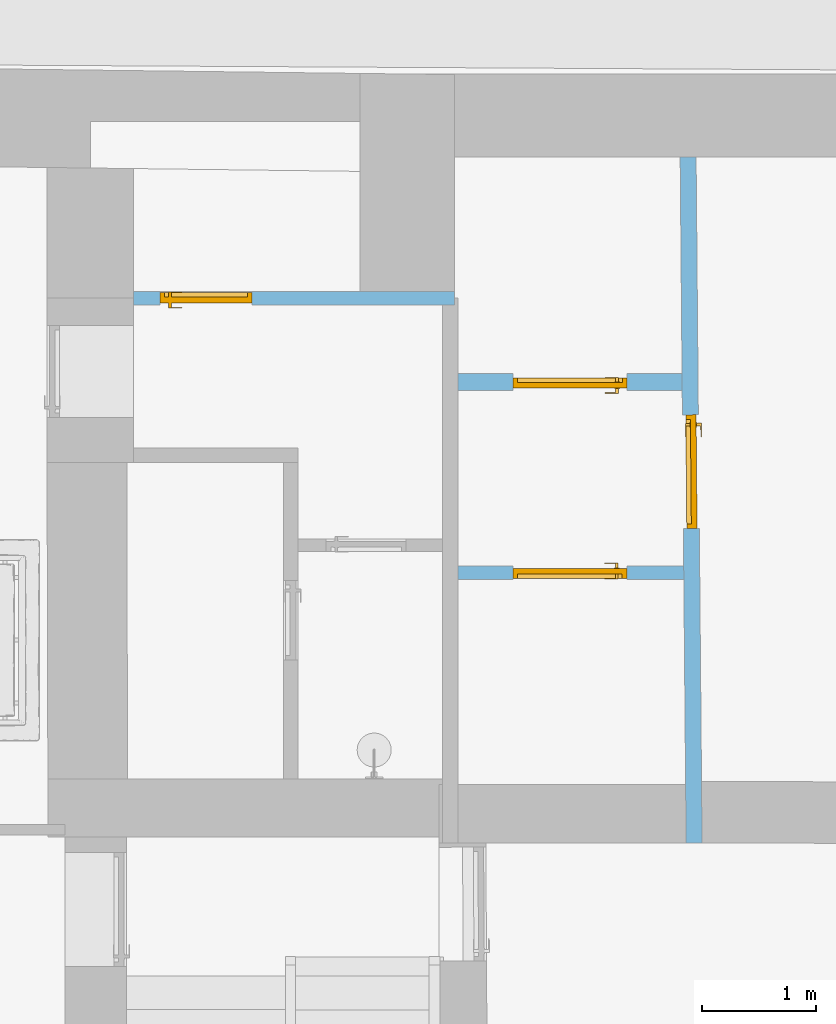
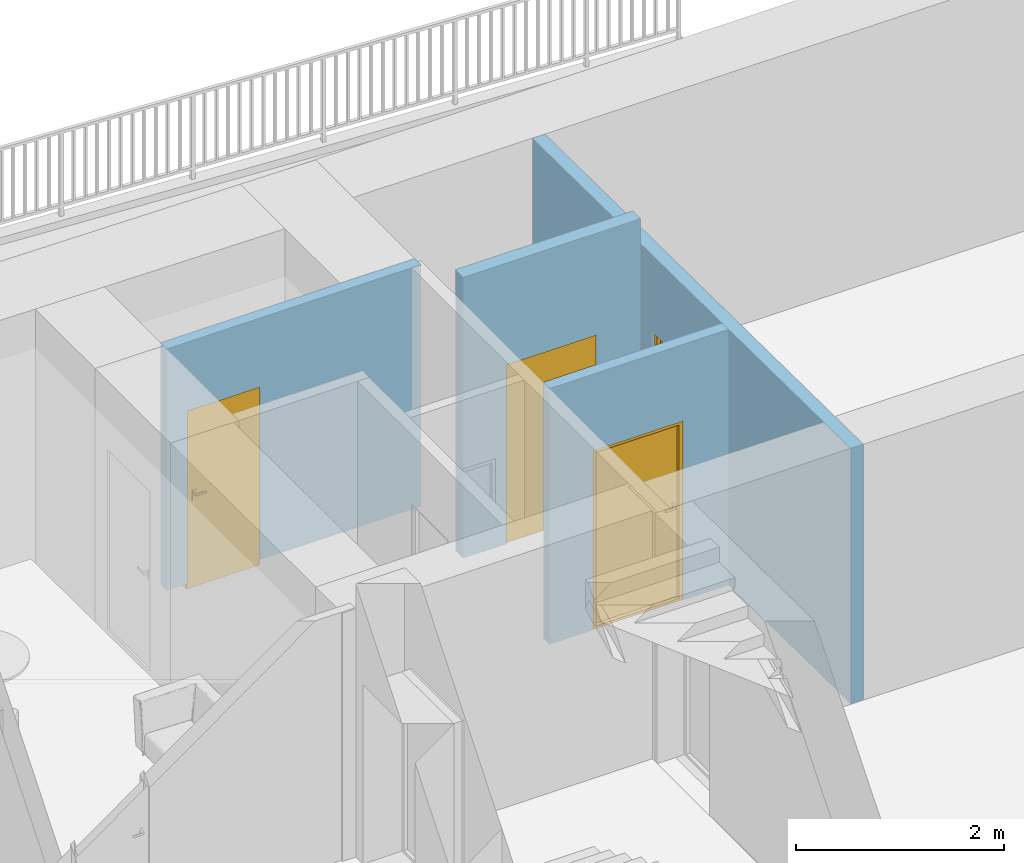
# One storey, part 9 of 17: 4 doors, 4 openings, plus 4 elements that do not belong to this part.
"""IFC2X3 building model written with IfcOpenShell, lengths in millimetres."""

from ifc_helpers import new_model, entity, si_unit, converted_unit, derived_unit, direction, frame, frame_2d, origin, place, context, subcontext, project, spatial, polyline, rectangle, outline, extrude, clip, bounded_halfspace, faceted_brep, source, transform, mapped, material, material_list, layer, layer_set, layer_usage, type_object, type_shapes, element, fill, save


model = new_model("IFC2X3")

# Units and contexts
model_context = context("Model", 3, precision=0.01, world=origin(), true_north=direction((6.12303176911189e-17, 1.0)))
context_of_model = context(None, 3, precision=0.01, world=origin(), true_north=direction((6.12303176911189e-17, 1.0)))
body_context = subcontext(model_context, "Body", "Model", "MODEL_VIEW")
ifc_project = project(units=[si_unit("LENGTHUNIT", "METRE", prefix="MILLI"), si_unit("AREAUNIT", "SQUARE_METRE"), si_unit("VOLUMEUNIT", "CUBIC_METRE"), converted_unit("PLANEANGLEUNIT", "DEGREE", entity("IfcRatioMeasure", 0.0174532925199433), si_unit("PLANEANGLEUNIT", "RADIAN"), dimensions=[0, 0, 0, 0, 0, 0, 0]), si_unit("MASSUNIT", "GRAM", prefix="KILO"), derived_unit("MASSDENSITYUNIT", [(si_unit("MASSUNIT", "GRAM", prefix="KILO"), 1), (si_unit("LENGTHUNIT", "METRE"), -3)]), si_unit("TIMEUNIT", "SECOND"), si_unit("FREQUENCYUNIT", "HERTZ"), si_unit("THERMODYNAMICTEMPERATUREUNIT", "DEGREE_CELSIUS"), derived_unit("THERMALTRANSMITTANCEUNIT", [(si_unit("MASSUNIT", "GRAM", prefix="KILO"), 1), (si_unit("THERMODYNAMICTEMPERATUREUNIT", "KELVIN"), -1), (si_unit("TIMEUNIT", "SECOND"), -3)]), derived_unit("VOLUMETRICFLOWRATEUNIT", [(si_unit("LENGTHUNIT", "METRE"), 3), (si_unit("TIMEUNIT", "SECOND"), -1)]), si_unit("ELECTRICCURRENTUNIT", "AMPERE"), si_unit("ELECTRICVOLTAGEUNIT", "VOLT"), si_unit("POWERUNIT", "WATT"), si_unit("FORCEUNIT", "NEWTON", prefix="KILO"), si_unit("ILLUMINANCEUNIT", "LUX"), si_unit("LUMINOUSFLUXUNIT", "LUMEN"), si_unit("LUMINOUSINTENSITYUNIT", "CANDELA"), derived_unit("USERDEFINED", [(si_unit("MASSUNIT", "GRAM", prefix="KILO"), -1), (si_unit("LENGTHUNIT", "METRE"), -2), (si_unit("TIMEUNIT", "SECOND"), 3), (si_unit("LUMINOUSFLUXUNIT", "LUMEN"), 1)]), derived_unit("LINEARVELOCITYUNIT", [(si_unit("LENGTHUNIT", "METRE"), 1), (si_unit("TIMEUNIT", "SECOND"), -1)]), si_unit("PRESSUREUNIT", "PASCAL"), derived_unit("USERDEFINED", [(si_unit("LENGTHUNIT", "METRE"), -2), (si_unit("MASSUNIT", "GRAM", prefix="KILO"), 1), (si_unit("TIMEUNIT", "SECOND"), -2)])], contexts=[model_context, context_of_model])

# Site, building, storey
site_placement = place(None, frame((121442.264707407, 135347.995453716, -1800.0)))
site = spatial("IfcSite", under=ifc_project, at=site_placement, Name="Surface", CompositionType="ELEMENT")
building_placement = place(site_placement, origin())
building = spatial("IfcBuilding", under=site, at=building_placement, CompositionType="ELEMENT")
storey_placement = place(building_placement, frame((0.0, 0.0, -1490.0)))
storey = spatial("IfcBuildingStorey", under=building, at=storey_placement, Name="Kelder", CompositionType="ELEMENT", Elevation=-1489.99999999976)

# Wall, opening, door
ifc_material_1 = material(Name="__Betoonelement")
ifc_layer_1 = layer(ifc_material_1, 140.0)
ifc_layer_set_1 = layer_set([ifc_layer_1], Name="Basic Wall:14_Betoon 2")
ifc_layer_usage_1 = layer_usage(ifc_layer_set_1, "AXIS2", "NEGATIVE", 70.0)
wall_type_1 = type_object("IfcWallType", Name="Basic Wall:14_Betoon 2", PredefinedType="STANDARD", material=ifc_layer_set_1)
wall_1_placement = place(storey_placement, frame((-104315.333458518, -121591.00230585, 0.0), z_axis=(0.0, 0.0, 1.0), x_axis=(-0.00869530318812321, 0.99996219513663, 0.0)))
wall_1 = element("IfcWallStandardCase", 1, at=wall_1_placement, inside=storey, type_object=wall_type_1, material=ifc_layer_usage_1, Name="Basic Wall:14_Betoon 2", ObjectType="Basic Wall:14_Betoon 2", context=body_context, shape_type="Clipping", body=[
    clip(extrude(outline(polyline([(0.0, -70.0), (540.040217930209, -70.0), (6021.4598611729, -70.0), (6022.67724964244, 70.0), (2432.22005119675, 70.0), (2312.21551444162, 70.0), (511.731331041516, 70.0), (1.70869322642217, 70.0), (0.0, -70.0)])), origin(), (0.0, 0.0, 1.0), 2997.0), bounded_halfspace(frame((0.0, -70.0, 2997.0), z_axis=(0.0, 0.0, -1.0), x_axis=(-0.99996219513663, 0.00869530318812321, 0.0)), True, frame((0.0, -70.0, 2997.0)), polyline([(0.0, 0.0), (540.04021793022, 0.0), (6021.4598611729, 0.0), (6022.67724964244, 140.0), (2432.22005119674, 140.0), (2312.21551444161, 140.0), (511.731331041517, 140.0), (1.70869322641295, 140.0), (0.0, 0.0)]))),
])
opening_1_placement = place(wall_1_placement, frame((3759.77243529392, 70.0, 0.0)))
opening_1 = element("IfcOpeningElement", 2, at=opening_1_placement, cuts=wall_1, Name="sma_D01:1000 x 2100mm SU-9 Tuletokke:1", ObjectType="Opening", context=body_context, shape_type="SweptSolid", body=[
    extrude(rectangle(XDim=2099.99999999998, YDim=1000.0, at=frame_2d((1049.99999999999, 500.0), x_axis=(1.0, 0.0))), frame((0.0, 0.0, 0.0), z_axis=(0.0, -1.0, 0.0), x_axis=(0.0, 0.0, 1.0)), (0.0, 0.0, 1.0), 140.0),
])
ifc_material_2 = material(Name="Metal - Aluminium")
ifc_material_3 = material(Name="Metalli - teras- valge")
ifc_material_list_1 = material_list([ifc_material_2, ifc_material_3])
ifc_material_list_2 = material_list([ifc_material_2, ifc_material_3])
door_style_1 = type_object("IfcDoorStyle", Name="1000 x 2100mm SU-9 Tuletokke", ConstructionType="NOTDEFINED", OperationType="SINGLE_SWING_RIGHT", ParameterTakesPrecedence=False, Sizeable=False, material=ifc_material_list_2)
shared_shape_1 = source(origin(), body_context, "Body", "Brep", [
    faceted_brep([(100.0, 30.0, 1112.5), (100.0, 68.0, 1112.5), (75.0, 68.0, 1112.5), (75.0, 25.0, 1112.5), (195.0, 25.0, 1112.5), (195.0, 30.0, 1112.5), (100.0, 30.0, 1087.5), (195.0, 30.0, 1087.5), (195.0, 25.0, 1087.5), (75.0, 25.0, 1087.5), (75.0, 68.0, 1087.5), (100.0, 68.0, 1087.5)], [[[0, 1, 2, 3, 4, 5]], [[6, 7, 8, 9, 10, 11]], [[1, 0, 6, 11]], [[2, 1, 11, 10]], [[3, 2, 10, 9]], [[4, 3, 9, 8]], [[5, 4, 8, 7]], [[0, 5, 7, 6]]]),
    faceted_brep([(112.499999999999, 68.0, 1137.5), (112.499999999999, 70.0, 1137.5), (62.4999999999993, 70.0, 1137.5), (62.4999999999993, 68.0, 1137.5), (112.499999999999, 68.0, 1017.5), (62.4999999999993, 68.0, 1017.5), (62.4999999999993, 70.0, 1017.5), (112.499999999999, 70.0, 1017.5)], [[[0, 1, 2, 3]], [[4, 5, 6, 7]], [[1, 0, 4, 7]], [[2, 1, 7, 6]], [[3, 2, 6, 5]], [[0, 3, 5, 4]]]),
    faceted_brep([(100.0, 160.0, 1112.5), (195.0, 160.0, 1112.5), (195.0, 165.0, 1112.5), (75.0, 165.0, 1112.5), (75.0, 122.0, 1112.5), (100.0, 122.0, 1112.5), (100.0, 160.0, 1087.5), (100.0, 122.0, 1087.5), (75.0, 122.0, 1087.5), (75.0, 165.0, 1087.5), (195.0, 165.0, 1087.5), (195.0, 160.0, 1087.5)], [[[0, 1, 2, 3, 4, 5]], [[6, 7, 8, 9, 10, 11]], [[5, 7, 6, 0]], [[4, 8, 7, 5]], [[3, 9, 8, 4]], [[2, 10, 9, 3]], [[1, 11, 10, 2]], [[0, 6, 11, 1]]]),
    faceted_brep([(112.499999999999, 122.0, 1137.5), (62.4999999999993, 122.0, 1137.5), (62.4999999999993, 120.0, 1137.5), (112.499999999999, 120.0, 1137.5), (112.499999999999, 122.0, 1017.5), (112.499999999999, 120.0, 1017.5), (62.4999999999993, 120.0, 1017.5), (62.4999999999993, 122.0, 1017.5)], [[[0, 1, 2, 3]], [[4, 5, 6, 7]], [[3, 5, 4, 0]], [[2, 6, 5, 3]], [[1, 7, 6, 2]], [[0, 4, 7, 1]]]),
    faceted_brep([(1000.0, 30.0, 0.0), (960.0, 30.0, 0.0), (960.0, 70.0, 0.0), (975.0, 70.0, 0.0), (975.0, 120.0, 0.0), (1000.0, 120.0, 0.0), (1000.0, 30.0, 2100.0), (0.0, 30.0, 2100.0), (0.0, 30.0, 0.0), (40.0, 30.0, 0.0), (40.0, 30.0, 2060.0), (960.0, 30.0, 2060.0), (960.0, 70.0, 2060.0), (40.0, 70.0, 2060.0), (40.0, 70.0, 0.0), (25.0, 70.0, 0.0), (25.0, 70.0, 2075.0), (975.0, 70.0, 2075.0), (975.0, 120.0, 2075.0), (25.0, 120.0, 2075.0), (25.0, 120.0, 0.0), (0.0, 120.0, 0.0), (0.0, 120.0, 2100.0), (1000.0, 120.0, 2100.0)], [[[0, 1, 2, 3, 4, 5]], [[1, 0, 6, 7, 8, 9, 10, 11]], [[2, 1, 11, 12]], [[3, 2, 12, 13, 14, 15, 16, 17]], [[4, 3, 17, 18]], [[5, 4, 18, 19, 20, 21, 22, 23]], [[0, 5, 23, 6]], [[7, 22, 21, 8]], [[8, 21, 20, 15, 14, 9]], [[13, 10, 9, 14]], [[19, 16, 15, 20]], [[12, 11, 10, 13]], [[18, 17, 16, 19]], [[6, 23, 22, 7]]]),
    faceted_brep([(25.0, 70.0, 2075.0), (25.0, 70.0, 20.0), (975.0, 70.0, 20.0), (975.0, 70.0, 2075.0), (25.0, 120.0, 2075.0), (975.0, 120.0, 2075.0), (975.0, 120.0, 20.0), (25.0, 120.0, 20.0)], [[[0, 1, 2, 3]], [[4, 5, 6, 7]], [[1, 0, 4, 7]], [[2, 1, 7, 6]], [[3, 2, 6, 5]], [[0, 3, 5, 4]]]),
    faceted_brep([(960.0, 30.0, 30.0), (960.0, 30.0, 0.0), (960.0, 70.0, 0.0), (960.0, 70.0, 20.0), (960.0, 70.0, 30.0), (40.0, 30.0, 30.0), (40.0, 70.0, 30.0), (40.0, 70.0, 20.0), (40.0, 70.0, 0.0), (40.0, 30.0, 0.0), (25.0, 70.0, 0.0), (25.0, 120.0, 0.0), (975.0, 120.0, 0.0), (975.0, 70.0, 0.0), (975.0, 120.0, 20.0), (975.0, 70.0, 20.0), (25.0, 120.0, 20.0), (25.0, 70.0, 20.0)], [[[0, 1, 2, 3, 4]], [[5, 6, 7, 8, 9]], [[1, 0, 5, 9]], [[2, 1, 9, 8, 10, 11, 12, 13]], [[6, 4, 3, 7]], [[0, 4, 6, 5]], [[14, 15, 13, 12]], [[16, 11, 10, 17]], [[15, 14, 16, 17, 7, 3]], [[13, 15, 3, 2]], [[14, 12, 11, 16]], [[17, 10, 8, 7]]]),
])
type_shapes(door_style_1, [shared_shape_1])
door_1_placement = place(opening_1_placement, frame((0.0, 0.0, 0.0), z_axis=(0.0, 0.0, 1.0), x_axis=(-1.0, 0.0, 0.0)))
door_1 = element("IfcDoor", 3, at=door_1_placement, inside=storey, type_object=door_style_1, material=ifc_material_list_1, Name="sma_D01:1000 x 2100mm SU-9 Tuletokke", ObjectType="1000 x 2100mm SU-9 Tuletokke", OverallHeight=2099.99999999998, OverallWidth=999.999999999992, context=body_context, shape_type="MappedRepresentation", body=[
    mapped(shared_shape_1, transform((0.0, 0.0, 0.0), scale=1.0)),
])
fill(opening_1, door_1)

ifc_layer_2 = layer(ifc_material_1, 120.0)
ifc_layer_set_2 = layer_set([ifc_layer_2], Name="Basic Wall:12_Betoon")
ifc_layer_usage_2 = layer_usage(ifc_layer_set_2, "AXIS2", "NEGATIVE", 60.0)
wall_type_2 = type_object("IfcWallType", Name="Basic Wall:12_Betoon", PredefinedType="STANDARD", material=ifc_layer_set_2)
wall_2_placement = place(storey_placement, frame((-109236.310640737, -116807.778632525, 165.0)))
wall_2 = element("IfcWallStandardCase", 4, at=wall_2_placement, inside=storey, type_object=wall_type_2, material=ifc_layer_usage_2, Name="Basic Wall:12_Betoon", ObjectType="Basic Wall:12_Betoon", context=body_context, shape_type="Clipping", body=[
    clip(extrude(rectangle(XDim=2817.23241885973, YDim=120.000000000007, at=frame_2d((1408.61620942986, 1.17239551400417e-13), x_axis=(-1.0, 0.0))), origin(), (0.0, 0.0, 1.0), 2832.0), bounded_halfspace(frame((0.0, -60.0, 2832.0), z_axis=(0.0, 0.0, -1.0), x_axis=(0.0, -1.0, 0.0)), True, frame((0.0, -60.0, 2832.0)), polyline([(0.0, 0.0), (2709.74414895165, 0.0), (2817.23241885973, 0.0), (2817.23241885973, 120.0), (1987.23241885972, 120.0), (0.0, 120.0), (0.0, 0.0)]))),
])
opening_2_placement = place(wall_2_placement, frame((1040.0, 60.0, -75.0)))
opening_2 = element("IfcOpeningElement", 5, at=opening_2_placement, cuts=wall_2, Name="sma_D01:810 x 2110_SU-04 Siseuks:1", ObjectType="Opening", context=body_context, shape_type="SweptSolid", body=[
    extrude(rectangle(XDim=2099.99999999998, YDim=810.0, at=frame_2d((1049.99999999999, 405.000000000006), x_axis=(1.0, 0.0))), frame((0.0, 0.0, 0.0), z_axis=(0.0, -1.0, 0.0), x_axis=(0.0, 0.0, 1.0)), (0.0, 0.0, 1.0), 120.0),
])
ifc_material_4 = material(Name="Door - Panel_valge")
ifc_material_list_3 = material_list([ifc_material_2, ifc_material_4])
ifc_material_list_4 = material_list([ifc_material_2, ifc_material_4])
door_style_2 = type_object("IfcDoorStyle", Name="810 x 2110_SU-04 Siseuks", ConstructionType="NOTDEFINED", OperationType="SINGLE_SWING_LEFT", ParameterTakesPrecedence=False, Sizeable=False, material=ifc_material_list_4)
shared_shape_2 = source(origin(), body_context, "Body", "Brep", [
    faceted_brep([(710.0, 10.0, 1112.5), (615.0, 10.0, 1112.5), (615.0, 5.0, 1112.5), (735.0, 5.0, 1112.5), (735.0, 48.0, 1112.5), (710.0, 48.0, 1112.5), (710.0, 10.0, 1087.5), (710.0, 48.0, 1087.5), (735.0, 48.0, 1087.5), (735.0, 5.0, 1087.5), (615.0, 5.0, 1087.5), (615.0, 10.0, 1087.5)], [[[0, 1, 2, 3, 4, 5]], [[6, 7, 8, 9, 10, 11]], [[5, 7, 6, 0]], [[4, 8, 7, 5]], [[3, 9, 8, 4]], [[2, 10, 9, 3]], [[1, 11, 10, 2]], [[0, 6, 11, 1]]]),
    faceted_brep([(697.500000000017, 48.0, 1137.5), (747.500000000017, 48.0, 1137.5), (747.500000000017, 50.0, 1137.5), (697.500000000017, 50.0, 1137.5), (697.500000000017, 48.0, 1017.5), (697.500000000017, 50.0, 1017.5), (747.500000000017, 50.0, 1017.5), (747.500000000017, 48.0, 1017.5)], [[[0, 1, 2, 3]], [[4, 5, 6, 7]], [[3, 5, 4, 0]], [[2, 6, 5, 3]], [[1, 7, 6, 2]], [[0, 4, 7, 1]]]),
    faceted_brep([(710.0, 140.0, 1112.5), (710.0, 102.0, 1112.5), (735.0, 102.0, 1112.5), (735.0, 145.0, 1112.5), (615.0, 145.0, 1112.5), (615.0, 140.0, 1112.5), (710.0, 140.0, 1087.5), (615.0, 140.0, 1087.5), (615.0, 145.0, 1087.5), (735.0, 145.0, 1087.5), (735.0, 102.0, 1087.5), (710.0, 102.0, 1087.5)], [[[0, 1, 2, 3, 4, 5]], [[6, 7, 8, 9, 10, 11]], [[1, 0, 6, 11]], [[2, 1, 11, 10]], [[3, 2, 10, 9]], [[4, 3, 9, 8]], [[5, 4, 8, 7]], [[0, 5, 7, 6]]]),
    faceted_brep([(697.500000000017, 102.0, 1137.5), (697.500000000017, 100.0, 1137.5), (747.500000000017, 100.0, 1137.5), (747.500000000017, 102.0, 1137.5), (697.500000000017, 102.0, 1017.5), (747.500000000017, 102.0, 1017.5), (747.500000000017, 100.0, 1017.5), (697.500000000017, 100.0, 1017.5)], [[[0, 1, 2, 3]], [[4, 5, 6, 7]], [[1, 0, 4, 7]], [[2, 1, 7, 6]], [[3, 2, 6, 5]], [[0, 3, 5, 4]]]),
    faceted_brep([(0.0, 10.0, 0.0), (0.0, 100.0, 0.0), (25.0, 100.0, 0.0), (25.0, 50.0, 0.0), (40.0, 50.0, 0.0), (40.0, 10.0, 0.0), (40.0, 10.0, 2060.0), (770.0, 10.0, 2060.0), (770.0, 10.0, 0.0), (810.0, 10.0, 0.0), (810.0, 10.0, 2100.0), (0.0, 10.0, 2100.0), (40.0, 50.0, 2060.0), (25.0, 50.0, 2075.0), (785.0, 50.0, 2075.0), (785.0, 50.0, 0.0), (770.0, 50.0, 0.0), (770.0, 50.0, 2060.0), (25.0, 100.0, 2075.0), (0.0, 100.0, 2100.0), (810.0, 100.0, 2100.0), (810.0, 100.0, 0.0), (785.0, 100.0, 0.0), (785.0, 100.0, 2075.0)], [[[0, 1, 2, 3, 4, 5]], [[5, 6, 7, 8, 9, 10, 11, 0]], [[4, 12, 6, 5]], [[3, 13, 14, 15, 16, 17, 12, 4]], [[2, 18, 13, 3]], [[1, 19, 20, 21, 22, 23, 18, 2]], [[0, 11, 19, 1]], [[10, 9, 21, 20]], [[9, 8, 16, 15, 22, 21]], [[17, 16, 8, 7]], [[23, 22, 15, 14]], [[12, 17, 7, 6]], [[18, 23, 14, 13]], [[11, 10, 20, 19]]]),
    faceted_brep([(785.0, 50.0, 2075.0), (25.0, 50.0, 2075.0), (25.0, 50.0, 20.0), (785.0, 50.0, 20.0), (785.0, 100.0, 2075.0), (785.0, 100.0, 20.0), (25.0, 100.0, 20.0), (25.0, 100.0, 2075.0)], [[[0, 1, 2, 3]], [[4, 5, 6, 7]], [[3, 5, 4, 0]], [[2, 6, 5, 3]], [[1, 7, 6, 2]], [[0, 4, 7, 1]]]),
    faceted_brep([(40.0, 10.0, 30.0), (40.0, 50.0, 30.0), (40.0, 50.0, 20.0), (40.0, 50.0, 0.0), (40.0, 10.0, 0.0), (770.0, 10.0, 30.0), (770.0, 10.0, 0.0), (770.0, 50.0, 0.0), (770.0, 50.0, 20.0), (770.0, 50.0, 30.0), (25.0, 50.0, 0.0), (25.0, 100.0, 0.0), (785.0, 100.0, 0.0), (785.0, 50.0, 0.0), (25.0, 100.0, 20.0), (25.0, 50.0, 20.0), (785.0, 100.0, 20.0), (785.0, 50.0, 20.0)], [[[0, 1, 2, 3, 4]], [[5, 6, 7, 8, 9]], [[4, 6, 5, 0]], [[3, 10, 11, 12, 13, 7, 6, 4]], [[9, 8, 2, 1]], [[0, 5, 9, 1]], [[14, 11, 10, 15]], [[16, 17, 13, 12]], [[15, 2, 8, 17, 16, 14]], [[10, 3, 2, 15]], [[14, 16, 12, 11]], [[17, 8, 7, 13]]]),
])
type_shapes(door_style_2, [shared_shape_2])
door_2_placement = place(opening_2_placement, frame((0.0, 0.0, 0.0), z_axis=(0.0, 0.0, 1.0), x_axis=(-1.0, 0.0, 0.0)))
door_2 = element("IfcDoor", 6, at=door_2_placement, inside=storey, type_object=door_style_2, material=ifc_material_list_3, Name="sma_D01:810 x 2110_SU-04 Siseuks", ObjectType="810 x 2110_SU-04 Siseuks", OverallHeight=2099.99999999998, OverallWidth=810.000000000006, context=body_context, shape_type="MappedRepresentation", body=[
    mapped(shared_shape_2, transform((0.0, 0.0, 0.0), scale=1.0)),
])
fill(opening_2, door_2)

ifc_layer_usage_3 = layer_usage(ifc_layer_set_2, "AXIS2", "POSITIVE", -60.0)
wall_3_placement = place(storey_placement, frame((-106386.566491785, -119219.482875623, 0.0)))
wall_3 = element("IfcWallStandardCase", 7, at=wall_3_placement, inside=storey, type_object=wall_type_2, material=ifc_layer_usage_3, Name="Basic Wall:12_Betoon", ObjectType="Basic Wall:12_Betoon", context=body_context, shape_type="Clipping", body=[
    clip(extrude(outline(polyline([(0.0, -60.0), (1981.13026467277, -60.0), (1980.08678884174, 60.0), (0.0, 60.0), (0.0, -60.0)])), origin(), (0.0, 0.0, 1.0), 2997.0), bounded_halfspace(frame((0.0, -60.0, 2997.0), z_axis=(0.0, 0.0, -1.0), x_axis=(0.0, -1.0, 0.0)), True, frame((0.0, -60.0, 2997.0)), polyline([(0.0, 0.0), (1981.13026467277, 0.0), (1980.08678884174, 120.0), (0.0, 120.0), (0.0, 0.0)]))),
])
opening_3_placement = place(wall_3_placement, frame((480.0, -60.0, 0.0)))
opening_3 = element("IfcOpeningElement", 8, at=opening_3_placement, cuts=wall_3, Name="sma_D01:1010 x 2110_Siseuks:1", ObjectType="Opening", context=body_context, shape_type="SweptSolid", body=[
    extrude(rectangle(XDim=2099.99999999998, YDim=1000.0, at=frame_2d((1049.99999999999, 500.0), x_axis=(1.0, 0.0))), frame((0.0, 0.0, 0.0), z_axis=(0.0, 1.0, 0.0), x_axis=(0.0, 0.0, 1.0)), (0.0, 0.0, 1.0), 120.0),
])
ifc_material_5 = material(Name="Door - Frame")
ifc_material_6 = material(Name="Door - Panel")
ifc_material_list_5 = material_list([ifc_material_2, ifc_material_5, ifc_material_6])
ifc_material_list_6 = material_list([ifc_material_2, ifc_material_5, ifc_material_6])
door_style_3 = type_object("IfcDoorStyle", Name="1010 x 2110_Siseuks", ConstructionType="NOTDEFINED", OperationType="SINGLE_SWING_LEFT", ParameterTakesPrecedence=False, Sizeable=False, material=ifc_material_list_6)
shared_shape_3 = source(origin(), body_context, "Body", "Brep", [
    faceted_brep([(900.0, 10.0, 1112.5), (805.0, 10.0, 1112.5), (805.0, 5.0, 1112.5), (925.0, 5.0, 1112.5), (925.0, 48.0, 1112.5), (900.0, 48.0, 1112.5), (900.0, 10.0, 1087.5), (900.0, 48.0, 1087.5), (925.0, 48.0, 1087.5), (925.0, 5.0, 1087.5), (805.0, 5.0, 1087.5), (805.0, 10.0, 1087.5)], [[[0, 1, 2, 3, 4, 5]], [[6, 7, 8, 9, 10, 11]], [[5, 7, 6, 0]], [[4, 8, 7, 5]], [[3, 9, 8, 4]], [[2, 10, 9, 3]], [[1, 11, 10, 2]], [[0, 6, 11, 1]]]),
    faceted_brep([(887.500000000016, 48.0, 1137.5), (937.500000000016, 48.0, 1137.5), (937.500000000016, 50.0, 1137.5), (887.500000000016, 50.0, 1137.5), (887.500000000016, 48.0, 1017.5), (887.500000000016, 50.0, 1017.5), (937.500000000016, 50.0, 1017.5), (937.500000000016, 48.0, 1017.5)], [[[0, 1, 2, 3]], [[4, 5, 6, 7]], [[3, 5, 4, 0]], [[2, 6, 5, 3]], [[1, 7, 6, 2]], [[0, 4, 7, 1]]]),
    faceted_brep([(900.0, 140.0, 1112.5), (900.0, 102.0, 1112.5), (925.0, 102.0, 1112.5), (925.0, 145.0, 1112.5), (805.0, 145.0, 1112.5), (805.0, 140.0, 1112.5), (900.0, 140.0, 1087.5), (805.0, 140.0, 1087.5), (805.0, 145.0, 1087.5), (925.0, 145.0, 1087.5), (925.0, 102.0, 1087.5), (900.0, 102.0, 1087.5)], [[[0, 1, 2, 3, 4, 5]], [[6, 7, 8, 9, 10, 11]], [[1, 0, 6, 11]], [[2, 1, 11, 10]], [[3, 2, 10, 9]], [[4, 3, 9, 8]], [[5, 4, 8, 7]], [[0, 5, 7, 6]]]),
    faceted_brep([(887.500000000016, 102.0, 1137.5), (887.500000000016, 100.0, 1137.5), (937.500000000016, 100.0, 1137.5), (937.500000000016, 102.0, 1137.5), (887.500000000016, 102.0, 1017.5), (937.500000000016, 102.0, 1017.5), (937.500000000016, 100.0, 1017.5), (887.500000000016, 100.0, 1017.5)], [[[0, 1, 2, 3]], [[4, 5, 6, 7]], [[1, 0, 4, 7]], [[2, 1, 7, 6]], [[3, 2, 6, 5]], [[0, 3, 5, 4]]]),
    faceted_brep([(0.0, 10.0, 0.0), (0.0, 100.0, 0.0), (25.0, 100.0, 0.0), (25.0, 50.0, 0.0), (40.0, 50.0, 0.0), (40.0, 10.0, 0.0), (40.0, 10.0, 2060.0), (960.0, 10.0, 2060.0), (960.0, 10.0, 0.0), (1000.0, 10.0, 0.0), (1000.0, 10.0, 2100.0), (0.0, 10.0, 2100.0), (40.0, 50.0, 2060.0), (25.0, 50.0, 2075.0), (975.0, 50.0, 2075.0), (975.0, 50.0, 0.0), (960.0, 50.0, 0.0), (960.0, 50.0, 2060.0), (25.0, 100.0, 2075.0), (0.0, 100.0, 2100.0), (1000.0, 100.0, 2100.0), (1000.0, 100.0, 0.0), (975.0, 100.0, 0.0), (975.0, 100.0, 2075.0)], [[[0, 1, 2, 3, 4, 5]], [[5, 6, 7, 8, 9, 10, 11, 0]], [[4, 12, 6, 5]], [[3, 13, 14, 15, 16, 17, 12, 4]], [[2, 18, 13, 3]], [[1, 19, 20, 21, 22, 23, 18, 2]], [[0, 11, 19, 1]], [[10, 9, 21, 20]], [[9, 8, 16, 15, 22, 21]], [[17, 16, 8, 7]], [[23, 22, 15, 14]], [[12, 17, 7, 6]], [[18, 23, 14, 13]], [[11, 10, 20, 19]]]),
    faceted_brep([(975.0, 50.0, 2075.0), (25.0, 50.0, 2075.0), (25.0, 50.0, 20.0), (975.0, 50.0, 20.0), (975.0, 100.0, 2075.0), (975.0, 100.0, 20.0), (25.0, 100.0, 20.0), (25.0, 100.0, 2075.0)], [[[0, 1, 2, 3]], [[4, 5, 6, 7]], [[3, 5, 4, 0]], [[2, 6, 5, 3]], [[1, 7, 6, 2]], [[0, 4, 7, 1]]]),
    faceted_brep([(40.0, 10.0, 30.0), (40.0, 50.0, 30.0), (40.0, 50.0, 20.0), (40.0, 50.0, 0.0), (40.0, 10.0, 0.0), (960.0, 10.0, 30.0), (960.0, 10.0, 0.0), (960.0, 50.0, 0.0), (960.0, 50.0, 20.0), (960.0, 50.0, 30.0), (25.0, 50.0, 0.0), (25.0, 100.0, 0.0), (975.0, 100.0, 0.0), (975.0, 50.0, 0.0), (25.0, 100.0, 20.0), (25.0, 50.0, 20.0), (975.0, 100.0, 20.0), (975.0, 50.0, 20.0)], [[[0, 1, 2, 3, 4]], [[5, 6, 7, 8, 9]], [[4, 6, 5, 0]], [[3, 10, 11, 12, 13, 7, 6, 4]], [[9, 8, 2, 1]], [[0, 5, 9, 1]], [[14, 11, 10, 15]], [[16, 17, 13, 12]], [[15, 2, 8, 17, 16, 14]], [[10, 3, 2, 15]], [[14, 16, 12, 11]], [[17, 8, 7, 13]]]),
])
type_shapes(door_style_3, [shared_shape_3])
door_3_placement = place(opening_3_placement, origin())
door_3 = element("IfcDoor", 9, at=door_3_placement, inside=storey, type_object=door_style_3, material=ifc_material_list_5, Name="sma_D01:1010 x 2110_Siseuks", ObjectType="1010 x 2110_Siseuks", OverallHeight=2099.99999999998, OverallWidth=999.999999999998, context=body_context, shape_type="MappedRepresentation", body=[
    mapped(shared_shape_3, transform((0.0, 0.0, 0.0), scale=1.0)),
])
fill(opening_3, door_3)

ifc_material_7 = material(Name="Plaster")
ifc_layer_3 = layer(ifc_material_7, 10.0)
ifc_material_8 = material(Name="EST. Müüritis. Väikeplokk. Kergkruusplokk")
ifc_layer_4 = layer(ifc_material_8, 130.0)
ifc_layer_5 = layer(ifc_material_7, 10.0)
ifc_layer_set_3 = layer_set([ifc_layer_3, ifc_layer_4, ifc_layer_5], Name="Basic Wall:15_FIBO")
ifc_layer_usage_4 = layer_usage(ifc_layer_set_3, "AXIS2", "NEGATIVE", 75.0)
wall_type_3 = type_object("IfcWallType", Name="Basic Wall:15_FIBO", PredefinedType="STANDARD", material=ifc_layer_set_3)
wall_4_placement = place(storey_placement, frame((-106386.566491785, -117542.778632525, 0.0)))
wall_4 = element("IfcWallStandardCase", 10, at=wall_4_placement, inside=storey, type_object=wall_type_3, material=ifc_layer_usage_4, Name="Basic Wall:15_FIBO", ObjectType="Basic Wall:15_FIBO", context=body_context, shape_type="SweptSolid", body=[
    extrude(rectangle(XDim=1965.3763514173, YDim=150.000000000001, at=frame_2d((982.688175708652, 0.0), x_axis=(-1.0, 0.0))), origin(), (0.0, 0.0, 1.0), 3290.0),
])
opening_4_placement = place(wall_4_placement, frame((1482.68817570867, 75.0, 0.0)))
opening_4 = element("IfcOpeningElement", 11, at=opening_4_placement, cuts=wall_4, Name="sma_D01:1010 x 2110_Siseuks:1", ObjectType="Opening", context=body_context, shape_type="SweptSolid", body=[
    extrude(rectangle(XDim=2099.99999999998, YDim=1000.0, at=frame_2d((1049.99999999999, 500.0), x_axis=(1.0, 0.0))), frame((0.0, 0.0, 0.0), z_axis=(0.0, -1.0, 0.0), x_axis=(0.0, 0.0, 1.0)), (0.0, 0.0, 1.0), 150.0),
])
ifc_material_list_7 = material_list([ifc_material_2, ifc_material_5, ifc_material_6])
ifc_material_list_8 = material_list([ifc_material_2, ifc_material_5, ifc_material_6])
door_style_4 = type_object("IfcDoorStyle", Name="1010 x 2110_Siseuks", ConstructionType="NOTDEFINED", OperationType="SINGLE_SWING_RIGHT", ParameterTakesPrecedence=False, Sizeable=False, material=ifc_material_list_8)
shared_shape_4 = source(origin(), body_context, "Body", "Brep", [
    faceted_brep([(100.0, 40.0, 1112.5), (100.0, 78.0, 1112.5), (75.0, 78.0, 1112.5), (75.0, 35.0, 1112.5), (195.0, 35.0, 1112.5), (195.0, 40.0, 1112.5), (100.0, 40.0, 1087.5), (195.0, 40.0, 1087.5), (195.0, 35.0, 1087.5), (75.0, 35.0, 1087.5), (75.0, 78.0, 1087.5), (100.0, 78.0, 1087.5)], [[[0, 1, 2, 3, 4, 5]], [[6, 7, 8, 9, 10, 11]], [[1, 0, 6, 11]], [[2, 1, 11, 10]], [[3, 2, 10, 9]], [[4, 3, 9, 8]], [[5, 4, 8, 7]], [[0, 5, 7, 6]]]),
    faceted_brep([(112.499999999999, 78.0, 1137.5), (112.499999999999, 80.0, 1137.5), (62.4999999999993, 80.0, 1137.5), (62.4999999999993, 78.0, 1137.5), (112.499999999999, 78.0, 1017.5), (62.4999999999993, 78.0, 1017.5), (62.4999999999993, 80.0, 1017.5), (112.499999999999, 80.0, 1017.5)], [[[0, 1, 2, 3]], [[4, 5, 6, 7]], [[1, 0, 4, 7]], [[2, 1, 7, 6]], [[3, 2, 6, 5]], [[0, 3, 5, 4]]]),
    faceted_brep([(100.0, 170.0, 1112.5), (195.0, 170.0, 1112.5), (195.0, 175.0, 1112.5), (75.0, 175.0, 1112.5), (75.0, 132.0, 1112.5), (100.0, 132.0, 1112.5), (100.0, 170.0, 1087.5), (100.0, 132.0, 1087.5), (75.0, 132.0, 1087.5), (75.0, 175.0, 1087.5), (195.0, 175.0, 1087.5), (195.0, 170.0, 1087.5)], [[[0, 1, 2, 3, 4, 5]], [[6, 7, 8, 9, 10, 11]], [[5, 7, 6, 0]], [[4, 8, 7, 5]], [[3, 9, 8, 4]], [[2, 10, 9, 3]], [[1, 11, 10, 2]], [[0, 6, 11, 1]]]),
    faceted_brep([(112.499999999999, 132.0, 1137.5), (62.4999999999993, 132.0, 1137.5), (62.4999999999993, 130.0, 1137.5), (112.499999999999, 130.0, 1137.5), (112.499999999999, 132.0, 1017.5), (112.499999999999, 130.0, 1017.5), (62.4999999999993, 130.0, 1017.5), (62.4999999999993, 132.0, 1017.5)], [[[0, 1, 2, 3]], [[4, 5, 6, 7]], [[3, 5, 4, 0]], [[2, 6, 5, 3]], [[1, 7, 6, 2]], [[0, 4, 7, 1]]]),
    faceted_brep([(1000.0, 40.0, 0.0), (960.0, 40.0, 0.0), (960.0, 80.0, 0.0), (975.0, 80.0, 0.0), (975.0, 130.0, 0.0), (1000.0, 130.0, 0.0), (1000.0, 40.0, 2100.0), (0.0, 40.0, 2100.0), (0.0, 40.0, 0.0), (40.0, 40.0, 0.0), (40.0, 40.0, 2060.0), (960.0, 40.0, 2060.0), (960.0, 80.0, 2060.0), (40.0, 80.0, 2060.0), (40.0, 80.0, 0.0), (25.0, 80.0, 0.0), (25.0, 80.0, 2075.0), (975.0, 80.0, 2075.0), (975.0, 130.0, 2075.0), (25.0, 130.0, 2075.0), (25.0, 130.0, 0.0), (0.0, 130.0, 0.0), (0.0, 130.0, 2100.0), (1000.0, 130.0, 2100.0)], [[[0, 1, 2, 3, 4, 5]], [[1, 0, 6, 7, 8, 9, 10, 11]], [[2, 1, 11, 12]], [[3, 2, 12, 13, 14, 15, 16, 17]], [[4, 3, 17, 18]], [[5, 4, 18, 19, 20, 21, 22, 23]], [[0, 5, 23, 6]], [[7, 22, 21, 8]], [[8, 21, 20, 15, 14, 9]], [[13, 10, 9, 14]], [[19, 16, 15, 20]], [[12, 11, 10, 13]], [[18, 17, 16, 19]], [[6, 23, 22, 7]]]),
    faceted_brep([(25.0, 80.0, 2075.0), (25.0, 80.0, 20.0), (975.0, 80.0, 20.0), (975.0, 80.0, 2075.0), (25.0, 130.0, 2075.0), (975.0, 130.0, 2075.0), (975.0, 130.0, 20.0), (25.0, 130.0, 20.0)], [[[0, 1, 2, 3]], [[4, 5, 6, 7]], [[1, 0, 4, 7]], [[2, 1, 7, 6]], [[3, 2, 6, 5]], [[0, 3, 5, 4]]]),
    faceted_brep([(960.0, 40.0, 30.0), (960.0, 40.0, 0.0), (960.0, 80.0, 0.0), (960.0, 80.0, 20.0), (960.0, 80.0, 30.0), (40.0, 40.0, 30.0), (40.0, 80.0, 30.0), (40.0, 80.0, 20.0), (40.0, 80.0, 0.0), (40.0, 40.0, 0.0), (25.0, 80.0, 0.0), (25.0, 130.0, 0.0), (975.0, 130.0, 0.0), (975.0, 80.0, 0.0), (975.0, 130.0, 20.0), (975.0, 80.0, 20.0), (25.0, 130.0, 20.0), (25.0, 80.0, 20.0)], [[[0, 1, 2, 3, 4]], [[5, 6, 7, 8, 9]], [[1, 0, 5, 9]], [[2, 1, 9, 8, 10, 11, 12, 13]], [[6, 4, 3, 7]], [[0, 4, 6, 5]], [[14, 15, 13, 12]], [[16, 11, 10, 17]], [[15, 14, 16, 17, 7, 3]], [[13, 15, 3, 2]], [[14, 12, 11, 16]], [[17, 10, 8, 7]]]),
])
type_shapes(door_style_4, [shared_shape_4])
door_4_placement = place(opening_4_placement, frame((0.0, 0.0, 0.0), z_axis=(0.0, 0.0, 1.0), x_axis=(-1.0, 0.0, 0.0)))
door_4 = element("IfcDoor", 12, at=door_4_placement, inside=storey, type_object=door_style_4, material=ifc_material_list_7, Name="sma_D01:1010 x 2110_Siseuks", ObjectType="1010 x 2110_Siseuks", OverallHeight=2099.99999999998, OverallWidth=999.999999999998, context=body_context, shape_type="MappedRepresentation", body=[
    mapped(shared_shape_4, transform((0.0, 0.0, 0.0), scale=1.0)),
])
fill(opening_4, door_4)

save(model, "model.ifc")
